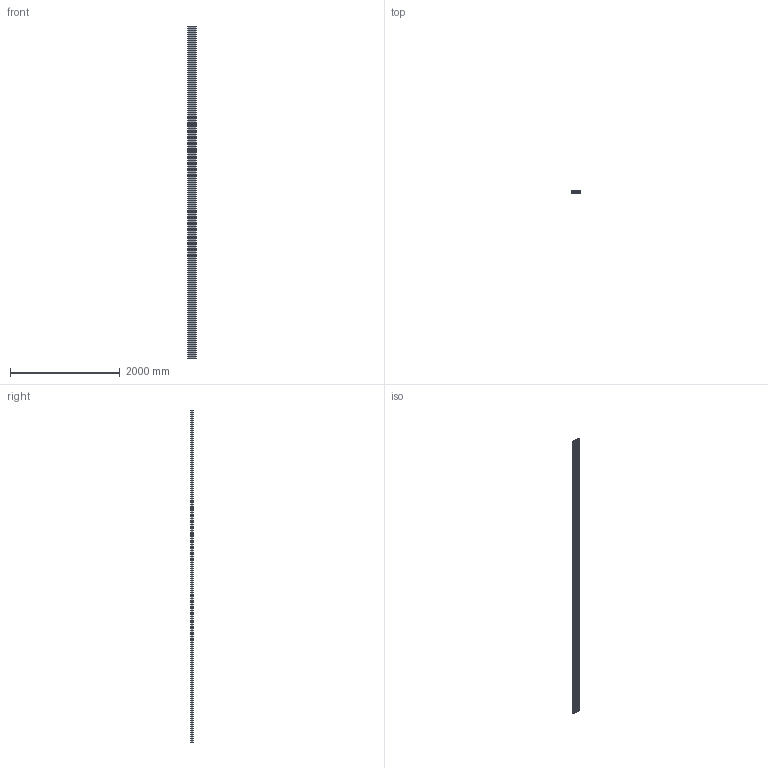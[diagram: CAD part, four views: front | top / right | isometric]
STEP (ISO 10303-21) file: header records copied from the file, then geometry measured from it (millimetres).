
FILE_DESCRIPTION (( 'STEP AP203' ), '1' );
FILE_NAME ('20104400_Profil 40x160L Nut 10.step', '2021-06-25T09:06:25', ( '' ), ( '' ), 'SwSTEP 2.0', 'SolidWorks 2021', '' );
FILE_SCHEMA (( 'CONFIG_CONTROL_DESIGN' ));
Length unit declared in the file: millimetre
Products named in the file (1): 20104400_Profil 40x160L Nut 10
Bounding box: 160 x 40 x 6060 mm (x, y, z)
Volume: 12835317.7 mm3; surface area: 8592394.4 mm2
Topology: 1 solids, 1 shells, 664 faces, 1986 edges, 1324 vertices
Faces by surface type: plane 350, cylinder 314
Entity records: 22619 total; most frequent: CARTESIAN_POINT 3975, ORIENTED_EDGE 3972, DIRECTION 3944, EDGE_CURVE 1986, LINE 1358, VECTOR 1358, VERTEX_POINT 1324, AXIS2_PLACEMENT_3D 1293
